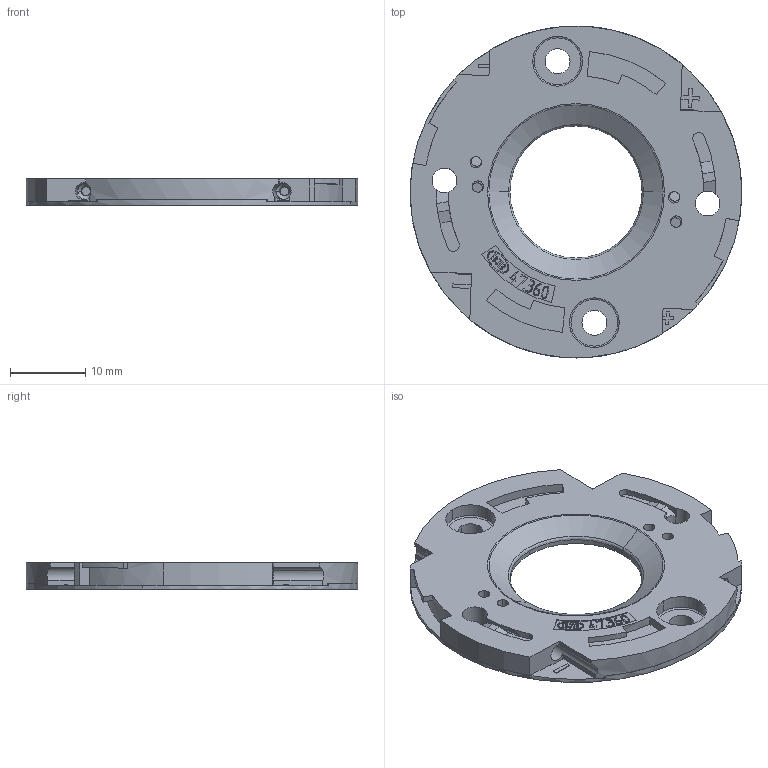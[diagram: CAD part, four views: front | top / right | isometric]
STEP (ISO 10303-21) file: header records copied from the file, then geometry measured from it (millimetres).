
FILE_DESCRIPTION(('CAx-IF Rec.Pracs.---Model Styling and Organization---1.2---2011-12-15','CAx-IF Rec.Pracs.---Geometric and Assembly Validation Properties---4.1---2014-06-16','CAx-IF Rec.Pracs.---PMI Polyline Presentation---2.0---2013-05-24'),'2;1');
FILE_NAME('01ZYR2XY08.stp','2019-01-21T10:57:44+01:00',(''),(''),'STEP Interface 4.2 by CT CoreTechnologie','3D_Evolution4.2 by CT CoreTechnologie','');
FILE_SCHEMA(('AUTOMOTIVE_DESIGN { 1 0 10303 214 1 1 1 1 }'));
Length unit declared in the file: millimetre
Products named in the file (3): 01Z-R2X-08; 01Z-R2X-07; 01Z-R0P-06
Assembly tree (2 placements, depth 2):
  01Z-R2X-08
    01Z-R2X-07
    01Z-R0P-06
Bounding box: 44 x 44 x 3.5 mm (x, y, z)
Volume: 3407.5 mm3; surface area: 6028.8 mm2
Topology: 2 solids, 2 shells, 514 faces, 1454 edges, 984 vertices
Faces by surface type: plane 330, cylinder 120, bspline 64
Entity records: 22623 total; most frequent: CARTESIAN_POINT 4833, ORIENTED_EDGE 2908, DIRECTION 2748, EDGE_CURVE 1454, VERTEX_POINT 984, VECTOR 982, LINE 982, AXIS2_PLACEMENT_3D 883
